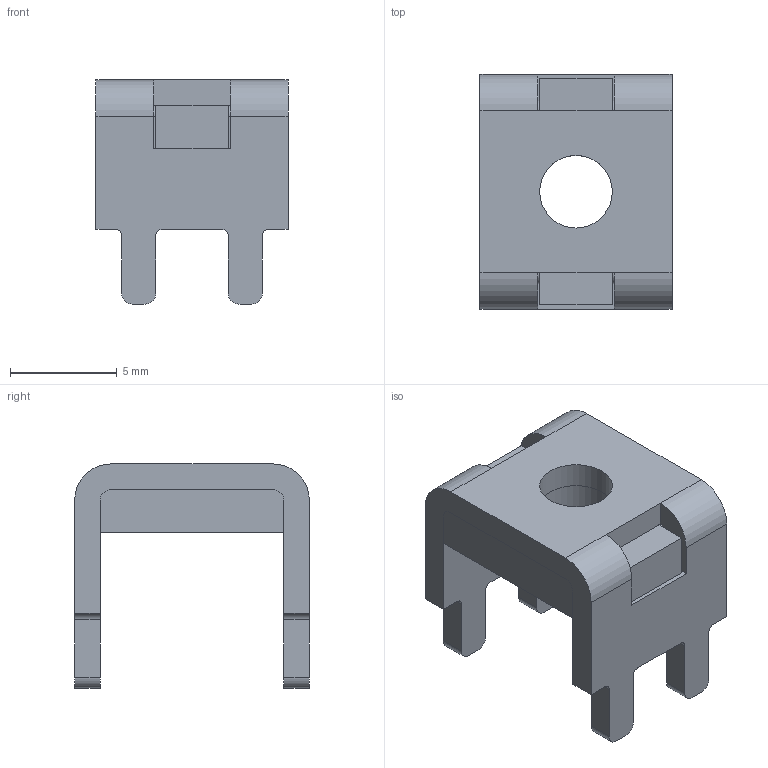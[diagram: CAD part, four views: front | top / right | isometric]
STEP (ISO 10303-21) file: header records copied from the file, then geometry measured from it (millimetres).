
FILE_DESCRIPTION(/* description */ (''),/* implementation_level */ '2;1');
FILE_NAME(/* name */ '9x11料厚1.2铁板中心距5.0高7.0mm脚长3.5mm.stp',/* time_stamp */ '2025-06-26T21:20:31+08:00',/* author */ (''),/* organization */ (''),/* preprocessor_version */ 'ST-DEVELOPER v16',/* originating_system */ 'SIEMENS PLM Software NX 10.0',/* authorisation */ '');
FILE_SCHEMA (('AP203_CONFIGURATION_CONTROLLED_3D_DESIGN_OF_MECHANICAL_PARTS_AND_ASSEMBLIES_MIM_LF { 1 0 10303 403 2 1 2}'));
Length unit declared in the file: millimetre
Products named in the file (1): Admi2ABC7C88fxn6
Bounding box: 9 x 11 x 10.5 mm (x, y, z)
Volume: 371.3 mm3; surface area: 766.5 mm2
Topology: 2 solids, 2 shells, 78 faces, 227 edges, 149 vertices
Faces by surface type: plane 48, cylinder 30
Full cylindrical faces by diameter (mm): 3.4 x2
Entity records: 2662 total; most frequent: CARTESIAN_POINT 451, ORIENTED_EDGE 448, DIRECTION 442, EDGE_CURVE 224, LINE 164, VECTOR 164, VERTEX_POINT 148, AXIS2_PLACEMENT_3D 139
